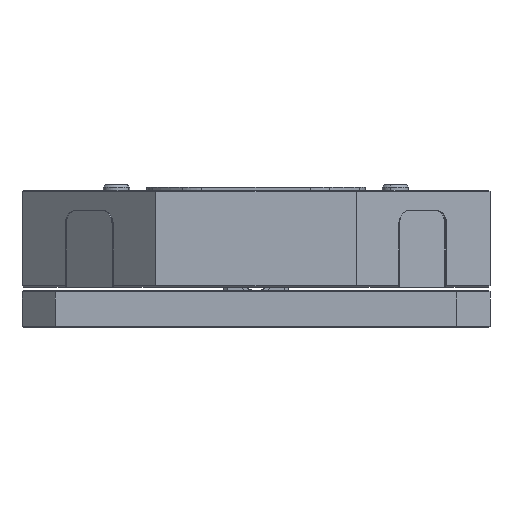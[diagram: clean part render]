
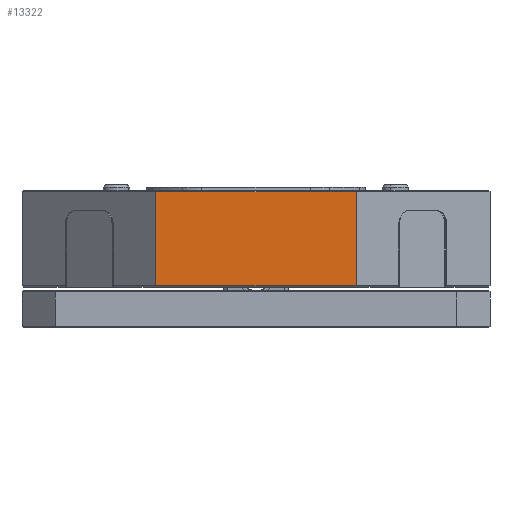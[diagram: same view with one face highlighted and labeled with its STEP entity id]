
A CAD part, front view. The second image highlights one B-rep face of the part: STEP entity #13322.
In plain terms, the highlighted planar face has unit normal (0, -1, 0).
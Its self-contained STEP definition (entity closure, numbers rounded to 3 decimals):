
#440 = AXIS2_PLACEMENT_3D ( 'NONE', #10232, #8656, #14044 ) ;
#1859 = VERTEX_POINT ( 'NONE', #2225 ) ;
#2225 = CARTESIAN_POINT ( 'NONE',  ( 43.137, -83.426, 1.45 ) ) ;
#3611 = PLANE ( 'NONE',  #440 ) ;
#3829 = DIRECTION ( 'NONE',  ( 1., 0., 0. ) ) ;
#4261 = LINE ( 'NONE', #8163, #8015 ) ;
#5148 = DIRECTION ( 'NONE',  ( -1., 0., 0. ) ) ;
#5717 = EDGE_CURVE ( 'NONE', #1859, #12948, #9131, .T. ) ;
#5738 = VECTOR ( 'NONE', #3829, 1000. ) ;
#5881 = CARTESIAN_POINT ( 'NONE',  ( 43.137, -83.426, 16.25 ) ) ;
#6119 = CARTESIAN_POINT ( 'NONE',  ( 73.137, -83.426, 1.45 ) ) ;
#6227 = CARTESIAN_POINT ( 'NONE',  ( 43.137, -83.426, 1.45 ) ) ;
#6484 = LINE ( 'NONE', #11859, #10020 ) ;
#6564 = VERTEX_POINT ( 'NONE', #12818 ) ;
#6748 = DIRECTION ( 'NONE',  ( 0., 0., -1. ) ) ;
#7609 = VERTEX_POINT ( 'NONE', #12461 ) ;
#8015 = VECTOR ( 'NONE', #6748, 1000. ) ;
#8163 = CARTESIAN_POINT ( 'NONE',  ( 73.137, -83.426, 16.25 ) ) ;
#8656 = DIRECTION ( 'NONE',  ( 0., 1., 0. ) ) ;
#8695 = DIRECTION ( 'NONE',  ( 0., 0., -1. ) ) ;
#9131 = LINE ( 'NONE', #6227, #5738 ) ;
#9138 = ORIENTED_EDGE ( 'NONE', *, *, #10205, .F. ) ;
#9961 = EDGE_CURVE ( 'NONE', #7609, #1859, #11260, .T. ) ;
#10020 = VECTOR ( 'NONE', #5148, 1000. ) ;
#10205 = EDGE_CURVE ( 'NONE', #6564, #12948, #4261, .T. ) ;
#10232 = CARTESIAN_POINT ( 'NONE',  ( 43.137, -83.426, 16.25 ) ) ;
#10765 = ORIENTED_EDGE ( 'NONE', *, *, #9961, .T. ) ;
#11053 = ORIENTED_EDGE ( 'NONE', *, *, #5717, .T. ) ;
#11091 = VECTOR ( 'NONE', #8695, 1000. ) ;
#11260 = LINE ( 'NONE', #5881, #11091 ) ;
#11859 = CARTESIAN_POINT ( 'NONE',  ( 43.137, -83.426, 15.55 ) ) ;
#12461 = CARTESIAN_POINT ( 'NONE',  ( 43.137, -83.426, 15.55 ) ) ;
#12733 = EDGE_CURVE ( 'NONE', #6564, #7609, #6484, .T. ) ;
#12818 = CARTESIAN_POINT ( 'NONE',  ( 73.137, -83.426, 15.55 ) ) ;
#12948 = VERTEX_POINT ( 'NONE', #6119 ) ;
#13322 = ADVANCED_FACE ( 'NONE', ( #17046 ), #3611, .F. ) ;
#14044 = DIRECTION ( 'NONE',  ( 0., 0., 1. ) ) ;
#14279 = ORIENTED_EDGE ( 'NONE', *, *, #12733, .T. ) ;
#14515 = EDGE_LOOP ( 'NONE', ( #10765, #11053, #9138, #14279 ) ) ;
#17046 = FACE_OUTER_BOUND ( 'NONE', #14515, .T. ) ;
